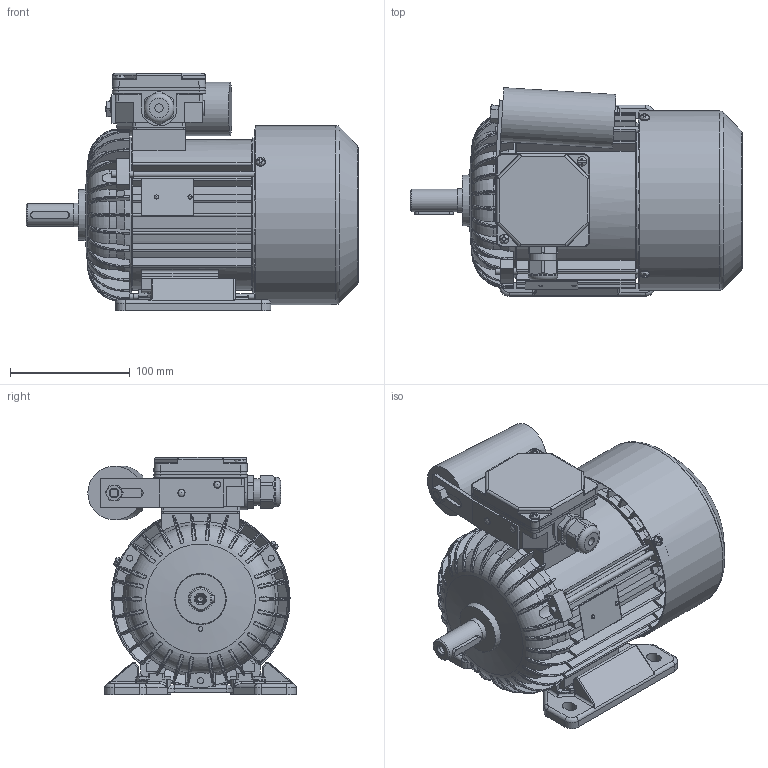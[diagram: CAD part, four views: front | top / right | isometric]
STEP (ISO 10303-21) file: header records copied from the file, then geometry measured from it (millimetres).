
FILE_DESCRIPTION( ( 'Unknown' ), '1' );
FILE_NAME( 'G:/Poczta Tk-1/STP/w.m.80/SEh80/SEh80-.B.stp', 'Unknown', ( 'K. Szlosek' ), ( 'BESEL S.A.' ), 'PSStep 17.0.49', 'Unknown', ' ' );
FILE_SCHEMA( ( 'AUTOMOTIVE_DESIGN { 1 0 10303 214 1 1 1 1 }' ) );
Length unit declared in the file: millimetre
Products named in the file (34): Assem1; K1-1257 Kadłub S(E,M)h80-A i B; K4-2320 Uszczelka nr 1 Sh71,80; K4-2820 Uszczelka nr 2 Sh71,80; K2-0860 Pokrywka skrzynki zaciskowej; Wkręt samogwintujący M4x16; Wkręt samogwintujący M4x8; K4-2999 Uchwyt kondensatora; Nit 4x12 po skróceniu; nakrętka M8; K1-0437 Łapa Sh80-.. ; K3-4025 Przewietrznik Sg,h80; K3-6857 Tarcza łożyskowa P S(E,M)h80-B,D; K2-2007 Tarcza łożyskowa N S(E,M)h80-; K3-2964 Osłona przewietrznika Sh80,90; Wpust A6x6x32; K2-1131 Podstawa skrzynki zaciskowej jednofazowa; Kondensator zb 25-31,5uF Comar; K4-0898 Tulejka uszczelniająca; K3-4616 wał standard Sh80-B; Dławnica M20x1,5; Tabliczka znamionowa 32x44; Łożysko 6204; Śruba ściągająca E_M5x130; Nitokołek A 2x6
Assembly tree (50 placements, depth 2):
  Assem1
    K1-1257 Kadłub S(E,M)h80-A i B
    K4-2320 Uszczelka nr 1 Sh71,80
    K4-2820 Uszczelka nr 2 Sh71,80
    K2-0860 Pokrywka skrzynki zaciskowej
    Wkręt samogwintujący M4x16  x2
    Wkręt samogwintujący M4x8  x3
    K4-2999 Uchwyt kondensatora
    Nit 4x12 po skróceniu  x2
    nakrętka M8
    K1-0437 Łapa Sh80-.. 
    K3-4025 Przewietrznik Sg,h80
    K3-6857 Tarcza łożyskowa P S(E,M)h80-B,D
    K2-2007 Tarcza łożyskowa N S(E,M)h80-
    K3-2964 Osłona przewietrznika Sh80,90
    Wpust A6x6x32
    K2-1131 Podstawa skrzynki zaciskowej jednofazowa
    Kondensator zb 25-31,5uF Comar
    K4-0898 Tulejka uszczelniająca
    K3-4616 wał standard Sh80-B
    Dławnica M20x1,5
    Tabliczka znamionowa 32x44
    Łożysko 6204  x2
    Łożysko 6204  x2
    Łożysko 6204  x2
    Łożysko 6204  x2
    Łożysko 6204  x2
    Łożysko 6204  x2
    Łożysko 6204  x2
    Łożysko 6204  x2
    Łożysko 6204  x2
    Łożysko 6204  x2
    Śruba ściągająca E_M5x130  x3
    Nitokołek A 2x6  x2
Bounding box: 277.8 x 174.3 x 198.5 mm (x, y, z)
Volume: 1067882.2 mm3; surface area: 582556.4 mm2
Topology: 50 solids, 66 shells, 3144 faces, 8591 edges, 5548 vertices
Faces by surface type: plane 1455, cylinder 982, torus 283, cone 211, bspline 173, sphere 40
Full cylindrical faces by diameter (mm): 2 x2, 2.4 x2, 3 x1, 3.7 x11, 4 x9, 4.2 x3, 4.3 x2, 4.5 x3, 4.6 x3, 4.8 x4, 4.917 x1, 5 x7, 5.5 x3, 6 x2, 6.4 x1, 6.5 x5, 6.647 x1, 7 x1, 8 x10, 10 x2, 18.376 x1, 18.38 x1, 19 x1, 19.3 x1, 19.5 x1, 19.9 x1, 20 x5, 20.4 x2, 22.3 x1, 25 x1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
Entity records: 178428 total; most frequent: CARTESIAN_POINT 80640, ORIENTED_EDGE 15688, DIRECTION 14756, EDGE_CURVE 7844, AXIS2_PLACEMENT_3D 5481, VERTEX_POINT 5211, LINE 3794, VECTOR 3794
